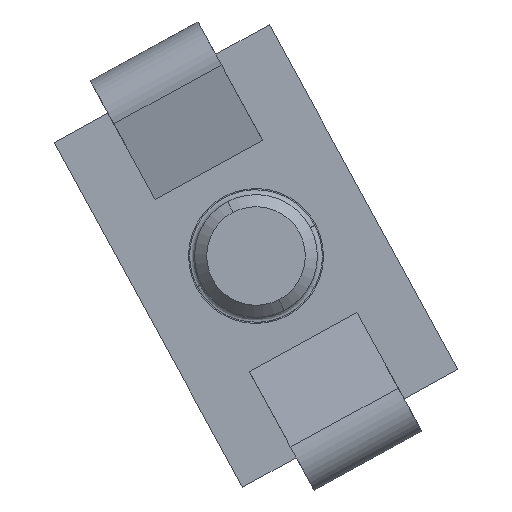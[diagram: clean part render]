
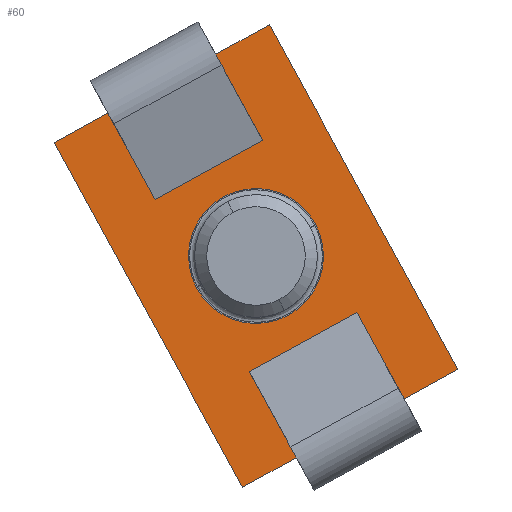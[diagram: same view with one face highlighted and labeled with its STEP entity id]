
A CAD part, front view. The second image highlights one B-rep face of the part: STEP entity #60.
In plain terms, the highlighted planar face has unit normal (0, -1, 0).
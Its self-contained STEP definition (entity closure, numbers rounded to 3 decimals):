
#24 = VECTOR ( 'NONE', #105, 1000. ) ;
#49 = CARTESIAN_POINT ( 'NONE',  ( -8., 1.8, -5. ) ) ;
#60 = ADVANCED_FACE ( 'NONE', ( #495, #172 ), #998, .F. ) ;
#105 = DIRECTION ( 'NONE',  ( 0., 0., -1. ) ) ;
#127 = CIRCLE ( 'NONE', #944, 2.75 ) ;
#147 = DIRECTION ( 'NONE',  ( 0., 0., 1. ) ) ;
#149 = VERTEX_POINT ( 'NONE', #49 ) ;
#150 = EDGE_CURVE ( 'NONE', #1600, #448, #416, .T. ) ;
#172 = FACE_OUTER_BOUND ( 'NONE', #1666, .T. ) ;
#233 = LINE ( 'NONE', #278, #922 ) ;
#278 = CARTESIAN_POINT ( 'NONE',  ( 8., 1.8, 0. ) ) ;
#292 = CARTESIAN_POINT ( 'NONE',  ( 8., 1.8, 5. ) ) ;
#301 = DIRECTION ( 'NONE',  ( 0., 0., -1. ) ) ;
#305 = ORIENTED_EDGE ( 'NONE', *, *, #1768, .F. ) ;
#315 = CARTESIAN_POINT ( 'NONE',  ( 0., 1.8, 0. ) ) ;
#317 = CARTESIAN_POINT ( 'NONE',  ( 8., 1.8, 2.5 ) ) ;
#350 = CARTESIAN_POINT ( 'NONE',  ( -8., 1.8, 0. ) ) ;
#364 = DIRECTION ( 'NONE',  ( 0., 0., -1. ) ) ;
#365 = DIRECTION ( 'NONE',  ( -1., 0., 0. ) ) ;
#410 = VERTEX_POINT ( 'NONE', #317 ) ;
#416 = LINE ( 'NONE', #350, #1462 ) ;
#436 = VECTOR ( 'NONE', #365, 1000. ) ;
#446 = CARTESIAN_POINT ( 'NONE',  ( -8., 1.8, -2.5 ) ) ;
#448 = VERTEX_POINT ( 'NONE', #1370 ) ;
#464 = ORIENTED_EDGE ( 'NONE', *, *, #855, .F. ) ;
#467 = ORIENTED_EDGE ( 'NONE', *, *, #864, .F. ) ;
#495 = FACE_BOUND ( 'NONE', #566, .T. ) ;
#555 = VECTOR ( 'NONE', #1323, 1000. ) ;
#566 = EDGE_LOOP ( 'NONE', ( #305, #1587 ) ) ;
#600 = DIRECTION ( 'NONE',  ( 0., 0., 1. ) ) ;
#607 = LINE ( 'NONE', #1803, #24 ) ;
#614 = CARTESIAN_POINT ( 'NONE',  ( -8., 1.8, 5. ) ) ;
#685 = EDGE_CURVE ( 'NONE', #1255, #410, #607, .T. ) ;
#718 = VERTEX_POINT ( 'NONE', #1233 ) ;
#732 = CIRCLE ( 'NONE', #970, 2.75 ) ;
#776 = LINE ( 'NONE', #1086, #778 ) ;
#778 = VECTOR ( 'NONE', #147, 1000. ) ;
#781 = CARTESIAN_POINT ( 'NONE',  ( 8., 1.8, 0. ) ) ;
#855 = EDGE_CURVE ( 'NONE', #718, #1743, #889, .T. ) ;
#864 = EDGE_CURVE ( 'NONE', #448, #1310, #776, .T. ) ;
#889 = LINE ( 'NONE', #781, #1390 ) ;
#921 = DIRECTION ( 'NONE',  ( 0., 1., 0. ) ) ;
#922 = VECTOR ( 'NONE', #1063, 1000. ) ;
#938 = ORIENTED_EDGE ( 'NONE', *, *, #1591, .F. ) ;
#944 = AXIS2_PLACEMENT_3D ( 'NONE', #315, #1896, #301 ) ;
#949 = CARTESIAN_POINT ( 'NONE',  ( 0., 1.8, -2.75 ) ) ;
#952 = LINE ( 'NONE', #1767, #1495 ) ;
#956 = VERTEX_POINT ( 'NONE', #1840 ) ;
#961 = DIRECTION ( 'NONE',  ( 0., 0., 1. ) ) ;
#970 = AXIS2_PLACEMENT_3D ( 'NONE', #1421, #1722, #1714 ) ;
#998 = PLANE ( 'NONE',  #1460 ) ;
#1012 = ORIENTED_EDGE ( 'NONE', *, *, #685, .F. ) ;
#1058 = DIRECTION ( 'NONE',  ( 0., 0., 1. ) ) ;
#1063 = DIRECTION ( 'NONE',  ( 0., 0., -1. ) ) ;
#1086 = CARTESIAN_POINT ( 'NONE',  ( -8., 1.8, 0. ) ) ;
#1116 = ORIENTED_EDGE ( 'NONE', *, *, #1171, .F. ) ;
#1171 = EDGE_CURVE ( 'NONE', #1743, #149, #1176, .T. ) ;
#1176 = LINE ( 'NONE', #1440, #436 ) ;
#1233 = CARTESIAN_POINT ( 'NONE',  ( 8., 1.8, -2.5 ) ) ;
#1255 = VERTEX_POINT ( 'NONE', #292 ) ;
#1274 = CARTESIAN_POINT ( 'NONE',  ( 0., 1.8, 5. ) ) ;
#1310 = VERTEX_POINT ( 'NONE', #614 ) ;
#1323 = DIRECTION ( 'NONE',  ( 1., 0., 0. ) ) ;
#1370 = CARTESIAN_POINT ( 'NONE',  ( -8., 1.8, 2.5 ) ) ;
#1390 = VECTOR ( 'NONE', #364, 1000. ) ;
#1421 = CARTESIAN_POINT ( 'NONE',  ( 0., 1.8, 0. ) ) ;
#1440 = CARTESIAN_POINT ( 'NONE',  ( 0., 1.8, -5. ) ) ;
#1446 = ORIENTED_EDGE ( 'NONE', *, *, #1687, .F. ) ;
#1460 = AXIS2_PLACEMENT_3D ( 'NONE', #1627, #921, #961 ) ;
#1462 = VECTOR ( 'NONE', #600, 1000. ) ;
#1495 = VECTOR ( 'NONE', #1058, 1000. ) ;
#1506 = CARTESIAN_POINT ( 'NONE',  ( 8., 1.8, -5. ) ) ;
#1587 = ORIENTED_EDGE ( 'NONE', *, *, #1712, .F. ) ;
#1591 = EDGE_CURVE ( 'NONE', #1310, #1255, #1661, .T. ) ;
#1600 = VERTEX_POINT ( 'NONE', #446 ) ;
#1627 = CARTESIAN_POINT ( 'NONE',  ( 0., 1.8, 0. ) ) ;
#1661 = LINE ( 'NONE', #1274, #555 ) ;
#1666 = EDGE_LOOP ( 'NONE', ( #1446, #1116, #464, #1843, #1012, #938, #467, #1747 ) ) ;
#1687 = EDGE_CURVE ( 'NONE', #149, #1600, #952, .T. ) ;
#1712 = EDGE_CURVE ( 'NONE', #956, #1876, #732, .T. ) ;
#1714 = DIRECTION ( 'NONE',  ( 0., 0., -1. ) ) ;
#1722 = DIRECTION ( 'NONE',  ( 0., -1., 0. ) ) ;
#1743 = VERTEX_POINT ( 'NONE', #1506 ) ;
#1747 = ORIENTED_EDGE ( 'NONE', *, *, #150, .F. ) ;
#1767 = CARTESIAN_POINT ( 'NONE',  ( -8., 1.8, 0. ) ) ;
#1768 = EDGE_CURVE ( 'NONE', #1876, #956, #127, .T. ) ;
#1803 = CARTESIAN_POINT ( 'NONE',  ( 8., 1.8, 0. ) ) ;
#1840 = CARTESIAN_POINT ( 'NONE',  ( 0., 1.8, 2.75 ) ) ;
#1843 = ORIENTED_EDGE ( 'NONE', *, *, #1899, .F. ) ;
#1876 = VERTEX_POINT ( 'NONE', #949 ) ;
#1896 = DIRECTION ( 'NONE',  ( 0., -1., 0. ) ) ;
#1899 = EDGE_CURVE ( 'NONE', #410, #718, #233, .T. ) ;
